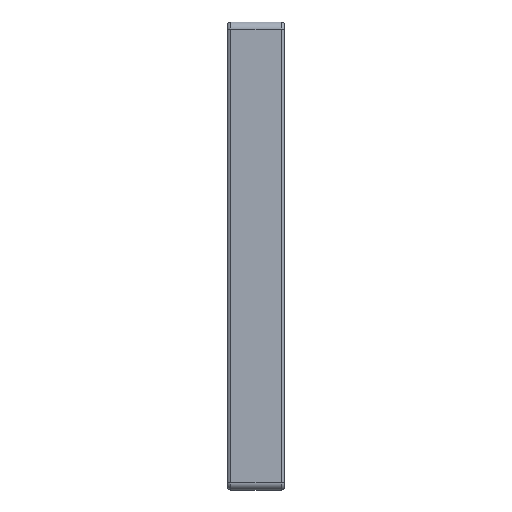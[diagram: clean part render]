
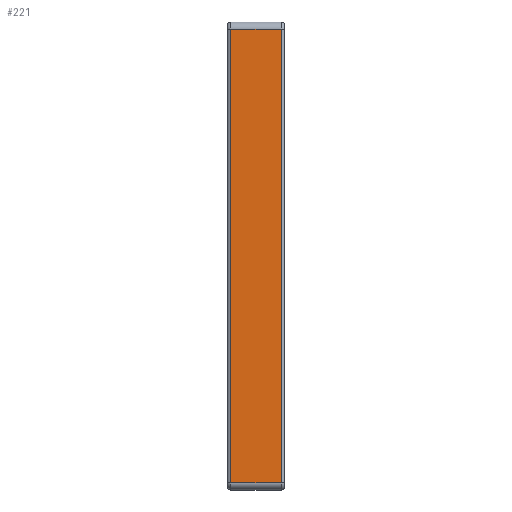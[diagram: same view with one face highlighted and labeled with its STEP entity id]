
A CAD part, left-side view. The second image highlights one B-rep face of the part: STEP entity #221.
In plain terms, the highlighted planar face has unit normal (-1, 0, 0).
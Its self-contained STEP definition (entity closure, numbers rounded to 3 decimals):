
#105 = CARTESIAN_POINT ( 'NONE',  ( 0., 8., -1. ) ) ;
#114 = CARTESIAN_POINT ( 'NONE',  ( 0., 7.5, 0. ) ) ;
#115 = DIRECTION ( 'NONE',  ( 0., 0., -1. ) ) ;
#116 = DIRECTION ( 'NONE',  ( 0., 1., 0. ) ) ;
#117 = CARTESIAN_POINT ( 'NONE',  ( 0., 0.5, -1. ) ) ;
#118 = DIRECTION ( 'NONE',  ( 0., 0., 1. ) ) ;
#119 = CARTESIAN_POINT ( 'NONE',  ( 0., 8., -64. ) ) ;
#120 = DIRECTION ( 'NONE',  ( 0., -1., 0. ) ) ;
#221 = ADVANCED_FACE ( 'NONE', ( #1160 ), #984, .F. ) ;
#284 = EDGE_CURVE ( 'NONE', #1668, #1466, #1214, .T. ) ;
#285 = EDGE_CURVE ( 'NONE', #1658, #1668, #1203, .T. ) ;
#286 = EDGE_CURVE ( 'NONE', #1476, #1658, #1190, .T. ) ;
#287 = EDGE_CURVE ( 'NONE', #1466, #1476, #1251, .T. ) ;
#489 = CARTESIAN_POINT ( 'NONE',  ( 0., 7.5, -64. ) ) ;
#500 = CARTESIAN_POINT ( 'NONE',  ( 0., 0.5, -64. ) ) ;
#509 = CARTESIAN_POINT ( 'NONE',  ( 0., 0.5, -1. ) ) ;
#518 = CARTESIAN_POINT ( 'NONE',  ( 0., 7.5, -1. ) ) ;
#982 = DIRECTION ( 'NONE',  ( 0., 0., -1. ) ) ;
#983 = DIRECTION ( 'NONE',  ( 1., 0., 0. ) ) ;
#984 = PLANE ( 'NONE',  #1044 ) ;
#991 = CARTESIAN_POINT ( 'NONE',  ( 0., 8., 0. ) ) ;
#1044 = AXIS2_PLACEMENT_3D ( 'NONE', #991, #983, #982 ) ;
#1160 = FACE_OUTER_BOUND ( 'NONE', #1615, .T. ) ;
#1184 = VECTOR ( 'NONE', #118, 1000. ) ;
#1190 = LINE ( 'NONE', #117, #1184 ) ;
#1203 = LINE ( 'NONE', #105, #1207 ) ;
#1207 = VECTOR ( 'NONE', #116, 1000. ) ;
#1213 = VECTOR ( 'NONE', #120, 1000. ) ;
#1214 = LINE ( 'NONE', #114, #1405 ) ;
#1247 = ORIENTED_EDGE ( 'NONE', *, *, #285, .T. ) ;
#1251 = LINE ( 'NONE', #119, #1213 ) ;
#1258 = ORIENTED_EDGE ( 'NONE', *, *, #287, .T. ) ;
#1267 = ORIENTED_EDGE ( 'NONE', *, *, #286, .T. ) ;
#1270 = ORIENTED_EDGE ( 'NONE', *, *, #284, .T. ) ;
#1405 = VECTOR ( 'NONE', #115, 1000. ) ;
#1466 = VERTEX_POINT ( 'NONE', #489 ) ;
#1476 = VERTEX_POINT ( 'NONE', #500 ) ;
#1615 = EDGE_LOOP ( 'NONE', ( #1258, #1267, #1247, #1270 ) ) ;
#1658 = VERTEX_POINT ( 'NONE', #509 ) ;
#1668 = VERTEX_POINT ( 'NONE', #518 ) ;
